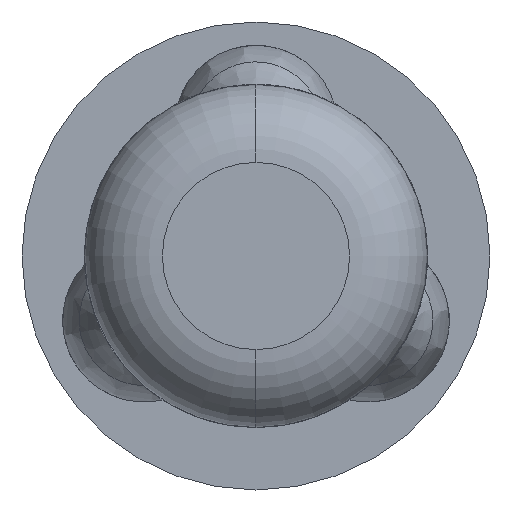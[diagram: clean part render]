
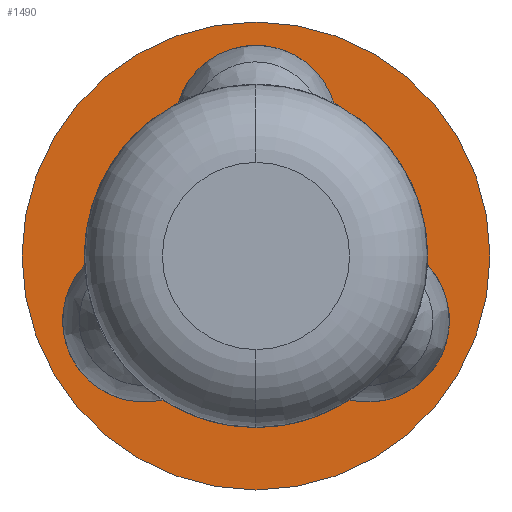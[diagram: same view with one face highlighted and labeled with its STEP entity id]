
A CAD part, left-side view. The second image highlights one B-rep face of the part: STEP entity #1490.
In plain terms, the highlighted planar face has unit normal (-1, 0, 0) as drawn and (0, -0.866, -0.5) by its records, which use the part's own axes.
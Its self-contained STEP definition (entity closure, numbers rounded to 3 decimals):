
#600=CARTESIAN_POINT('',(38.01,224.316,
40.488));
#610=VERTEX_POINT('',#600);
#700=CARTESIAN_POINT('',(38.01,222.816,
43.086));
#710=VERTEX_POINT('',#700);
#740=CARTESIAN_POINT('',(38.01,223.566,
41.787));
#750=DIRECTION('',(0.,0.866,
0.5));
#760=DIRECTION('',(-1.,0.,0.));
#770=AXIS2_PLACEMENT_3D('',#740,#750,#760);
#780=CIRCLE('',#770,1.5);
#790=CARTESIAN_POINT('',(36.51,223.566,
41.787));
#800=VERTEX_POINT('',#790);
#810=EDGE_CURVE('',#800,#710,#780,.T.);
#830=EDGE_CURVE('',#610,#800,#780,.T.);
#880=CARTESIAN_POINT('',(36.71,223.566,
41.787));
#890=DIRECTION('',(0.,0.866,
0.5));
#900=DIRECTION('',(0.,0.5,
-0.866));
#910=AXIS2_PLACEMENT_3D('',#880,#890,#900);
#920=PLANE('',#910);
#930=CARTESIAN_POINT('',(37.293,223.773,
41.429));
#940=DIRECTION('',(0.,0.866,
0.5));
#950=DIRECTION('',(0.5,0.433,-0.75
));
#960=AXIS2_PLACEMENT_3D('',#930,#940,#950);
#970=CIRCLE('',#960,0.523);
#980=CARTESIAN_POINT('',(37.411,224.027,
40.988));
#990=VERTEX_POINT('',#980);
#1000=CARTESIAN_POINT('',(36.911,223.594,
41.738));
#1010=VERTEX_POINT('',#1000);
#1020=EDGE_CURVE('',#990,#1010,#970,.T.);
#1030=ORIENTED_EDGE('',*,*,#1020,.T.);
#1040=CARTESIAN_POINT('',(38.01,223.566,
41.787));
#1050=DIRECTION('',(0.,0.866,
0.5));
#1060=DIRECTION('',(-1.,0.,0.));
#1070=AXIS2_PLACEMENT_3D('',#1040,#1050,#1060);
#1080=CIRCLE('',#1070,1.1);
#1090=CARTESIAN_POINT('',(38.01,224.116,
40.834));
#1100=VERTEX_POINT('',#1090);
#1110=EDGE_CURVE('',#1100,#990,#1080,.T.);
#1120=ORIENTED_EDGE('',*,*,#1110,.T.);
#1130=CARTESIAN_POINT('',(38.608,224.027,
40.988));
#1140=VERTEX_POINT('',#1130);
#1150=EDGE_CURVE('',#1140,#1100,#1080,.T.);
#1160=ORIENTED_EDGE('',*,*,#1150,.T.);
#1170=CARTESIAN_POINT('',(38.726,223.773,
41.429));
#1180=DIRECTION('',(0.,0.866,
0.5));
#1190=DIRECTION('',(0.5,-0.433,
0.75));
#1200=AXIS2_PLACEMENT_3D('',#1170,#1180,#1190);
#1210=CIRCLE('',#1200,0.523);
#1220=CARTESIAN_POINT('',(39.108,223.594,
41.738));
#1230=VERTEX_POINT('',#1220);
#1240=EDGE_CURVE('',#1230,#1140,#1210,.T.);
#1250=ORIENTED_EDGE('',*,*,#1240,.T.);
#1260=CARTESIAN_POINT('',(38.51,223.076,
42.635));
#1270=VERTEX_POINT('',#1260);
#1280=EDGE_CURVE('',#1270,#1230,#1080,.T.);
#1290=ORIENTED_EDGE('',*,*,#1280,.T.);
#1300=CARTESIAN_POINT('',(38.01,223.152,
42.503));
#1310=DIRECTION('',(0.,0.866,
0.5));
#1320=DIRECTION('',(-1.,0.,0.));
#1330=AXIS2_PLACEMENT_3D('',#1300,#1310,#1320);
#1340=CIRCLE('',#1330,0.523);
#1350=CARTESIAN_POINT('',(37.51,223.076,
42.635));
#1360=VERTEX_POINT('',#1350);
#1370=EDGE_CURVE('',#1360,#1270,#1340,.T.);
#1380=ORIENTED_EDGE('',*,*,#1370,.T.);
#1390=EDGE_CURVE('',#1010,#1360,#1080,.T.);
#1400=ORIENTED_EDGE('',*,*,#1390,.T.);
#1410=EDGE_LOOP('',(#1400,#1380,#1290,#1250,#1160,#1120,#1030));
#1420=FACE_BOUND('',#1410,.T.);
#1430=ORIENTED_EDGE('',*,*,#810,.F.);
#1440=EDGE_CURVE('',#710,#610,#780,.T.);
#1450=ORIENTED_EDGE('',*,*,#1440,.F.);
#1460=ORIENTED_EDGE('',*,*,#830,.F.);
#1470=EDGE_LOOP('',(#1460,#1450,#1430));
#1480=FACE_OUTER_BOUND('',#1470,.T.);
#1490=ADVANCED_FACE('',(#1420,#1480),#920,.F.);
